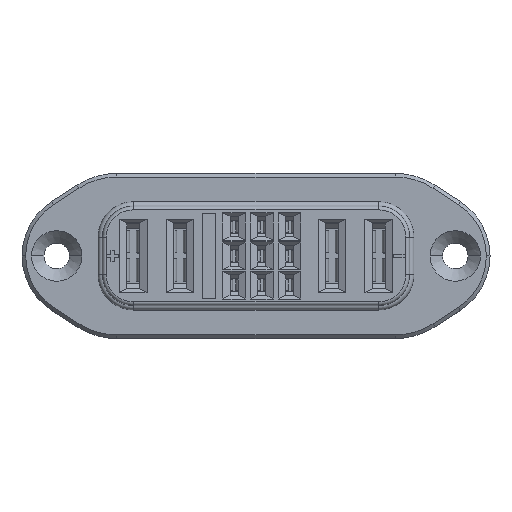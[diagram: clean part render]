
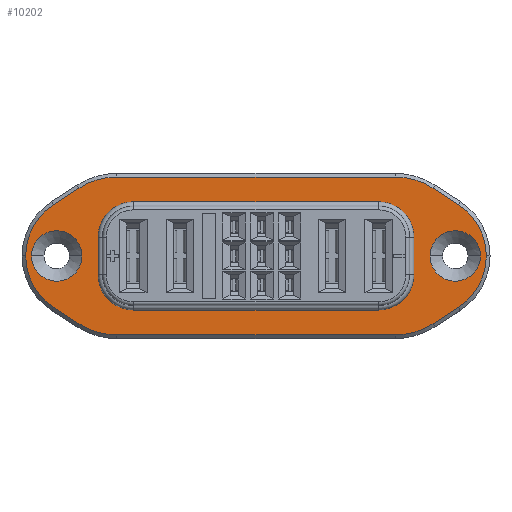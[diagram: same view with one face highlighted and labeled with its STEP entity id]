
A CAD part, top view. The second image highlights one B-rep face of the part: STEP entity #10202.
In plain terms, the highlighted planar face has unit normal (0, 0, 1).
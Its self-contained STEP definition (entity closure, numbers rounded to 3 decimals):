
#1112=CARTESIAN_POINT('',(-23.9,-50.03,55.34));
#1113=DIRECTION('',(0.,0.,-1.));
#1114=DIRECTION('',(-1.,0.004,0.));
#1115=AXIS2_PLACEMENT_3D('',#1112,#1113,#1114);
#1117=DIRECTION('',(0.838,0.545,0.));
#1118=VECTOR('',#1117,4.133);
#1119=CARTESIAN_POINT('',(-28.478,-42.987,
55.34));
#1120=LINE('',#1119,#1118);
#1121=CARTESIAN_POINT('',(-19.836,-48.7,55.34));
#1122=DIRECTION('',(0.,0.,-1.));
#1123=DIRECTION('',(-0.545,0.838,0.));
#1124=AXIS2_PLACEMENT_3D('',#1121,#1122,#1123);
#1126=CARTESIAN_POINT('',(18.236,-48.7,55.34));
#1127=DIRECTION('',(0.,0.,-1.));
#1128=DIRECTION('',(0.,1.,0.));
#1129=AXIS2_PLACEMENT_3D('',#1126,#1127,#1128);
#1131=DIRECTION('',(0.838,-0.545,0.));
#1132=VECTOR('',#1131,4.133);
#1133=CARTESIAN_POINT('',(23.413,-40.735,55.34));
#1134=LINE('',#1133,#1132);
#1135=CARTESIAN_POINT('',(22.3,-50.03,55.34));
#1136=DIRECTION('',(0.,0.,-1.));
#1137=DIRECTION('',(0.545,0.838,0.));
#1138=AXIS2_PLACEMENT_3D('',#1135,#1136,#1137);
#1140=CARTESIAN_POINT('',(22.3,-49.97,55.34));
#1141=DIRECTION('',(0.,0.,-1.));
#1142=DIRECTION('',(1.,-0.004,0.));
#1143=AXIS2_PLACEMENT_3D('',#1140,#1141,#1142);
#1145=DIRECTION('',(-0.838,-0.545,0.));
#1146=VECTOR('',#1145,4.133);
#1147=CARTESIAN_POINT('',(26.878,-57.013,55.34));
#1148=LINE('',#1147,#1146);
#1149=CARTESIAN_POINT('',(18.236,-51.3,55.34));
#1150=DIRECTION('',(0.,0.,-1.));
#1151=DIRECTION('',(0.545,-0.838,0.));
#1152=AXIS2_PLACEMENT_3D('',#1149,#1150,#1151);
#1154=CARTESIAN_POINT('',(-19.836,-51.3,55.34));
#1155=DIRECTION('',(0.,0.,-1.));
#1156=DIRECTION('',(0.,-1.,0.));
#1157=AXIS2_PLACEMENT_3D('',#1154,#1155,#1156);
#1159=DIRECTION('',(-0.838,0.545,0.));
#1160=VECTOR('',#1159,4.133);
#1161=CARTESIAN_POINT('',(-25.013,-59.265,
55.34));
#1162=LINE('',#1161,#1160);
#1163=CARTESIAN_POINT('',(-23.9,-49.97,55.34));
#1164=DIRECTION('',(0.,0.,-1.));
#1165=DIRECTION('',(-0.545,-0.838,0.));
#1166=AXIS2_PLACEMENT_3D('',#1163,#1164,#1165);
#1168=CARTESIAN_POINT('',(-28.05,-50.,55.34));
#1169=DIRECTION('',(0.,0.,1.));
#1170=DIRECTION('',(-1.,0.,0.));
#1171=AXIS2_PLACEMENT_3D('',#1168,#1169,#1170);
#1173=CARTESIAN_POINT('',(-28.05,-50.,55.34));
#1174=DIRECTION('',(0.,0.,1.));
#1175=DIRECTION('',(1.,0.,0.));
#1176=AXIS2_PLACEMENT_3D('',#1173,#1174,#1175);
#1178=CARTESIAN_POINT('',(26.45,-50.,55.34));
#1179=DIRECTION('',(0.,0.,1.));
#1180=DIRECTION('',(-1.,0.,0.));
#1181=AXIS2_PLACEMENT_3D('',#1178,#1179,#1180);
#1183=CARTESIAN_POINT('',(26.45,-50.,55.34));
#1184=DIRECTION('',(0.,0.,1.));
#1185=DIRECTION('',(1.,0.,0.));
#1186=AXIS2_PLACEMENT_3D('',#1183,#1184,#1185);
#1188=CARTESIAN_POINT('',(-17.55,-47.45,55.34));
#1189=DIRECTION('',(0.,0.,1.));
#1190=DIRECTION('',(0.,1.,0.));
#1191=AXIS2_PLACEMENT_3D('',#1188,#1189,#1190);
#1193=CARTESIAN_POINT('',(-17.55,-52.55,55.34));
#1194=DIRECTION('',(0.,0.,1.));
#1195=DIRECTION('',(-1.,0.,0.));
#1196=AXIS2_PLACEMENT_3D('',#1193,#1194,#1195);
#1198=CARTESIAN_POINT('',(15.95,-52.55,55.34));
#1199=DIRECTION('',(0.,0.,1.));
#1200=DIRECTION('',(0.,-1.,0.));
#1201=AXIS2_PLACEMENT_3D('',#1198,#1199,#1200);
#1203=CARTESIAN_POINT('',(15.95,-47.45,55.34));
#1204=DIRECTION('',(0.,0.,1.));
#1205=DIRECTION('',(1.,0.,0.));
#1206=AXIS2_PLACEMENT_3D('',#1203,#1204,#1205);
#1238=DIRECTION('',(-1.,0.,0.));
#1239=VECTOR('',#1238,38.071);
#1240=CARTESIAN_POINT('',(18.236,-39.2,55.34));
#1241=LINE('',#1240,#1239);
#1293=DIRECTION('',(1.,0.,0.));
#1294=VECTOR('',#1293,38.071);
#1295=CARTESIAN_POINT('',(-19.836,-60.8,55.34));
#1296=LINE('',#1295,#1294);
#1357=DIRECTION('',(1.,0.,0.));
#1358=VECTOR('',#1357,33.5);
#1359=CARTESIAN_POINT('',(-17.55,-43.2,55.34));
#1360=LINE('',#1359,#1358);
#1377=DIRECTION('',(0.,-1.,0.));
#1378=VECTOR('',#1377,5.1);
#1379=CARTESIAN_POINT('',(20.2,-47.45,55.34));
#1380=LINE('',#1379,#1378);
#1393=DIRECTION('',(-1.,0.,0.));
#1394=VECTOR('',#1393,33.5);
#1395=CARTESIAN_POINT('',(15.95,-56.8,55.34));
#1396=LINE('',#1395,#1394);
#1465=DIRECTION('',(0.,1.,0.));
#1466=VECTOR('',#1465,5.1);
#1467=CARTESIAN_POINT('',(-21.8,-52.55,55.34));
#1468=LINE('',#1467,#1466);
#7129=CARTESIAN_POINT('',(-17.55,-43.2,55.34));
#7130=CARTESIAN_POINT('',(15.95,-43.2,55.34));
#7131=VERTEX_POINT('',#7129);
#7132=VERTEX_POINT('',#7130);
#7133=CARTESIAN_POINT('',(-32.3,-50.,55.34));
#7134=CARTESIAN_POINT('',(-28.478,-42.987,
55.34));
#7135=VERTEX_POINT('',#7133);
#7136=VERTEX_POINT('',#7134);
#7137=CARTESIAN_POINT('',(-25.013,-40.735,
55.34));
#7138=VERTEX_POINT('',#7137);
#7139=CARTESIAN_POINT('',(-19.836,-39.2,55.34));
#7140=VERTEX_POINT('',#7139);
#7141=CARTESIAN_POINT('',(18.236,-39.2,55.34));
#7142=VERTEX_POINT('',#7141);
#7143=CARTESIAN_POINT('',(23.413,-40.735,55.34));
#7144=VERTEX_POINT('',#7143);
#7145=CARTESIAN_POINT('',(26.878,-42.987,55.34));
#7146=VERTEX_POINT('',#7145);
#7147=CARTESIAN_POINT('',(30.7,-50.,55.34));
#7148=VERTEX_POINT('',#7147);
#7149=CARTESIAN_POINT('',(26.878,-57.013,55.34));
#7150=VERTEX_POINT('',#7149);
#7151=CARTESIAN_POINT('',(23.413,-59.265,55.34));
#7152=VERTEX_POINT('',#7151);
#7153=CARTESIAN_POINT('',(18.236,-60.8,55.34));
#7154=VERTEX_POINT('',#7153);
#7155=CARTESIAN_POINT('',(-19.836,-60.8,55.34));
#7156=VERTEX_POINT('',#7155);
#7157=CARTESIAN_POINT('',(-25.013,-59.265,
55.34));
#7158=VERTEX_POINT('',#7157);
#7159=CARTESIAN_POINT('',(-28.478,-57.013,
55.34));
#7160=VERTEX_POINT('',#7159);
#7161=CARTESIAN_POINT('',(-31.5,-50.,55.34));
#7162=CARTESIAN_POINT('',(-24.6,-50.,55.34));
#7163=VERTEX_POINT('',#7161);
#7164=VERTEX_POINT('',#7162);
#7165=CARTESIAN_POINT('',(23.,-50.,55.34));
#7166=CARTESIAN_POINT('',(29.9,-50.,55.34));
#7167=VERTEX_POINT('',#7165);
#7168=VERTEX_POINT('',#7166);
#7169=CARTESIAN_POINT('',(-21.8,-47.45,55.34));
#7170=VERTEX_POINT('',#7169);
#7171=CARTESIAN_POINT('',(-21.8,-52.55,55.34));
#7172=VERTEX_POINT('',#7171);
#7173=CARTESIAN_POINT('',(-17.55,-56.8,55.34));
#7174=VERTEX_POINT('',#7173);
#7175=CARTESIAN_POINT('',(15.95,-56.8,55.34));
#7176=VERTEX_POINT('',#7175);
#7177=CARTESIAN_POINT('',(20.2,-52.55,55.34));
#7178=VERTEX_POINT('',#7177);
#7179=CARTESIAN_POINT('',(20.2,-47.45,55.34));
#7180=VERTEX_POINT('',#7179);
#10141=CARTESIAN_POINT('',(-3.7,-50.,55.34));
#10142=DIRECTION('',(0.,0.,-1.));
#10143=DIRECTION('',(-1.,0.,0.));
#10144=AXIS2_PLACEMENT_3D('',#10141,#10142,#10143);
#10145=PLANE('',#10144);
#10147=ORIENTED_EDGE('',*,*,#10146,.T.);
#10149=ORIENTED_EDGE('',*,*,#10148,.T.);
#10151=ORIENTED_EDGE('',*,*,#10150,.T.);
#10153=ORIENTED_EDGE('',*,*,#10152,.F.);
#10155=ORIENTED_EDGE('',*,*,#10154,.T.);
#10157=ORIENTED_EDGE('',*,*,#10156,.T.);
#10158=ORIENTED_EDGE('',*,*,#10133,.T.);
#10159=ORIENTED_EDGE('',*,*,#10122,.T.);
#10160=ORIENTED_EDGE('',*,*,#10108,.T.);
#10161=ORIENTED_EDGE('',*,*,#10094,.T.);
#10163=ORIENTED_EDGE('',*,*,#10162,.F.);
#10165=ORIENTED_EDGE('',*,*,#10164,.T.);
#10167=ORIENTED_EDGE('',*,*,#10166,.T.);
#10169=ORIENTED_EDGE('',*,*,#10168,.T.);
#10170=EDGE_LOOP('',(#10147,#10149,#10151,#10153,#10155,#10157,#10158,#10159,
#10160,#10161,#10163,#10165,#10167,#10169));
#10171=FACE_OUTER_BOUND('',#10170,.F.);
#10173=ORIENTED_EDGE('',*,*,#10172,.T.);
#10175=ORIENTED_EDGE('',*,*,#10174,.T.);
#10176=EDGE_LOOP('',(#10173,#10175));
#10177=FACE_BOUND('',#10176,.F.);
#10179=ORIENTED_EDGE('',*,*,#10178,.T.);
#10181=ORIENTED_EDGE('',*,*,#10180,.T.);
#10182=EDGE_LOOP('',(#10179,#10181));
#10183=FACE_BOUND('',#10182,.F.);
#10185=ORIENTED_EDGE('',*,*,#10184,.T.);
#10187=ORIENTED_EDGE('',*,*,#10186,.F.);
#10189=ORIENTED_EDGE('',*,*,#10188,.T.);
#10191=ORIENTED_EDGE('',*,*,#10190,.F.);
#10193=ORIENTED_EDGE('',*,*,#10192,.T.);
#10195=ORIENTED_EDGE('',*,*,#10194,.F.);
#10197=ORIENTED_EDGE('',*,*,#10196,.T.);
#10199=ORIENTED_EDGE('',*,*,#10198,.F.);
#10200=EDGE_LOOP('',(#10185,#10187,#10189,#10191,#10193,#10195,#10197,#10199));
#10201=FACE_BOUND('',#10200,.F.);
#10202=ADVANCED_FACE('',(#10171,#10177,#10183,#10201),#10145,.F.);
#1116=CIRCLE('',#1115,8.4);
#1125=CIRCLE('',#1124,9.5);
#1130=CIRCLE('',#1129,9.5);
#1139=CIRCLE('',#1138,8.4);
#1144=CIRCLE('',#1143,8.4);
#1153=CIRCLE('',#1152,9.5);
#1158=CIRCLE('',#1157,9.5);
#1167=CIRCLE('',#1166,8.4);
#1172=CIRCLE('',#1171,3.45);
#1177=CIRCLE('',#1176,3.45);
#1182=CIRCLE('',#1181,3.45);
#1187=CIRCLE('',#1186,3.45);
#1192=CIRCLE('',#1191,4.25);
#1197=CIRCLE('',#1196,4.25);
#1202=CIRCLE('',#1201,4.25);
#1207=CIRCLE('',#1206,4.25);
#10094=EDGE_CURVE('',#7152,#7154,#1153,.T.);
#10108=EDGE_CURVE('',#7150,#7152,#1148,.T.);
#10122=EDGE_CURVE('',#7148,#7150,#1144,.T.);
#10133=EDGE_CURVE('',#7146,#7148,#1139,.T.);
#10146=EDGE_CURVE('',#7135,#7136,#1116,.T.);
#10148=EDGE_CURVE('',#7136,#7138,#1120,.T.);
#10150=EDGE_CURVE('',#7138,#7140,#1125,.T.);
#10152=EDGE_CURVE('',#7142,#7140,#1241,.T.);
#10154=EDGE_CURVE('',#7142,#7144,#1130,.T.);
#10156=EDGE_CURVE('',#7144,#7146,#1134,.T.);
#10162=EDGE_CURVE('',#7156,#7154,#1296,.T.);
#10164=EDGE_CURVE('',#7156,#7158,#1158,.T.);
#10166=EDGE_CURVE('',#7158,#7160,#1162,.T.);
#10168=EDGE_CURVE('',#7160,#7135,#1167,.T.);
#10172=EDGE_CURVE('',#7163,#7164,#1172,.T.);
#10174=EDGE_CURVE('',#7164,#7163,#1177,.T.);
#10178=EDGE_CURVE('',#7167,#7168,#1182,.T.);
#10180=EDGE_CURVE('',#7168,#7167,#1187,.T.);
#10184=EDGE_CURVE('',#7131,#7170,#1192,.T.);
#10186=EDGE_CURVE('',#7172,#7170,#1468,.T.);
#10188=EDGE_CURVE('',#7172,#7174,#1197,.T.);
#10190=EDGE_CURVE('',#7176,#7174,#1396,.T.);
#10192=EDGE_CURVE('',#7176,#7178,#1202,.T.);
#10194=EDGE_CURVE('',#7180,#7178,#1380,.T.);
#10196=EDGE_CURVE('',#7180,#7132,#1207,.T.);
#10198=EDGE_CURVE('',#7131,#7132,#1360,.T.);
